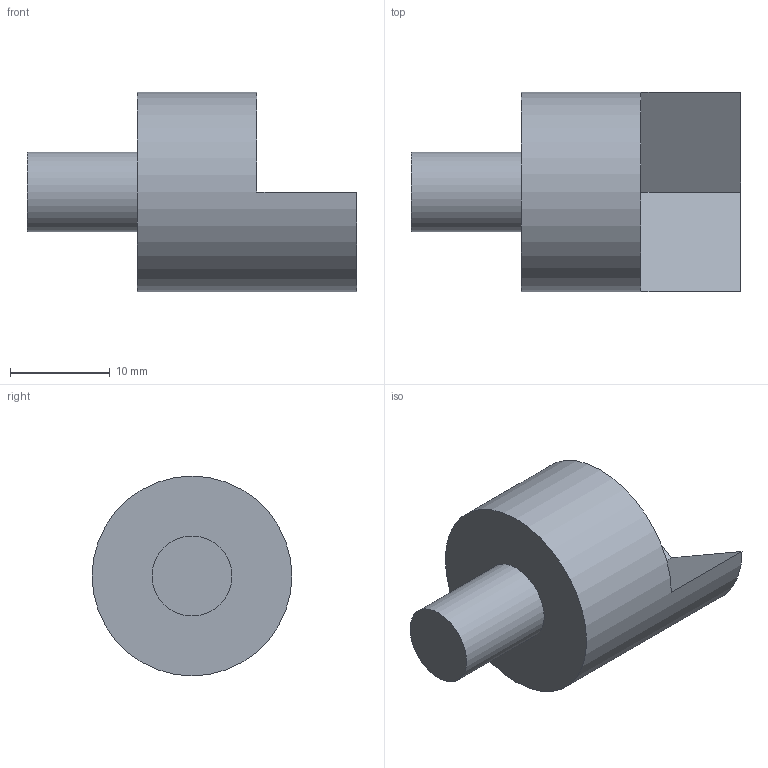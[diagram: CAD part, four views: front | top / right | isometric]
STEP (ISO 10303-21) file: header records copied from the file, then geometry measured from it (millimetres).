
FILE_DESCRIPTION(/* description */ ('Appoggio e riferimento su 3 piani Ø20'),/* implementation_level */ '2;1');
FILE_NAME(/* name */ 'C:\Users\Utente\Desktop\Standard finalmente ordinati\SAR221008.stp',/* time_stamp */ '2018-02-13T16:56:29+01:00',/* author */ ('Utente'),/* organization */ (''),/* preprocessor_version */ 'ST-DEVELOPER v16.1',/* originating_system */ 'Autodesk Inventor 2016',/* authorisation */ '');
FILE_SCHEMA (('AUTOMOTIVE_DESIGN { 1 0 10303 214 3 1 1 }'));
Length unit declared in the file: millimetre
Products named in the file (1): SAR221008
Bounding box: 33 x 20 x 20 mm (x, y, z)
Volume: 5316.3 mm3; surface area: 2203.9 mm2
Topology: 1 solids, 1 shells, 8 faces, 14 edges, 9 vertices
Faces by surface type: plane 6, cylinder 2
Full cylindrical faces by diameter (mm): 8 x1, 20 x1
Entity records: 209 total; most frequent: DIRECTION 35, CARTESIAN_POINT 30, ORIENTED_EDGE 24, AXIS2_PLACEMENT_3D 14, EDGE_CURVE 12, EDGE_LOOP 11, VERTEX_POINT 9, FACE_OUTER_BOUND 8
